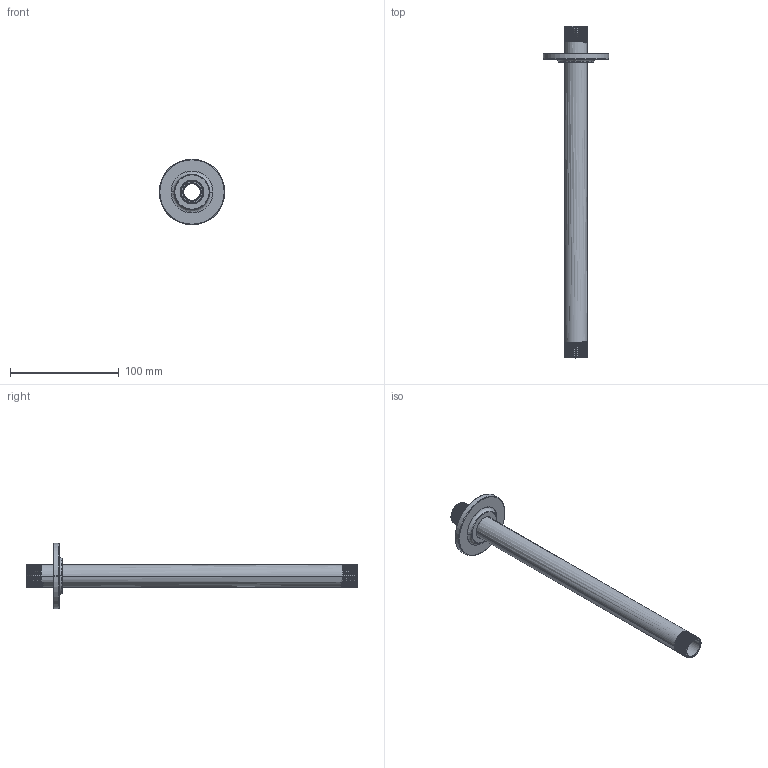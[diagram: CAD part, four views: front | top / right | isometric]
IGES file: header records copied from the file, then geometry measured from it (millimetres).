
Start section: SolidWorks IGES file using analytic representation for surfaces
Global section: file name: C:\Users\ccai\Desktop\CeliaC\Projects\0731-ADHOC-02292 Netural Files\000sku_R586SERIES_\sku_r586series_igs.IGS; native system: SolidWorks 2023; preprocessor: SolidWorks 2023; author: ccai; date: 240723.143636; units: inch
Bounding box: 60 x 304.8 x 60 mm (x, y, z)
Surface area: 45694.3 mm2 (no closed solid volume)
Topology: 0 solids, 0 shells, 114 faces, 1430 edges, 1430 vertices
Faces by surface type: bspline 58, revolution 56
